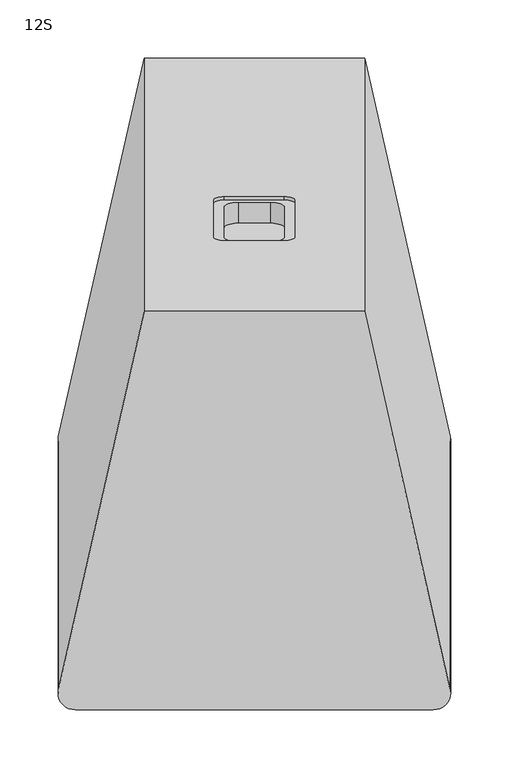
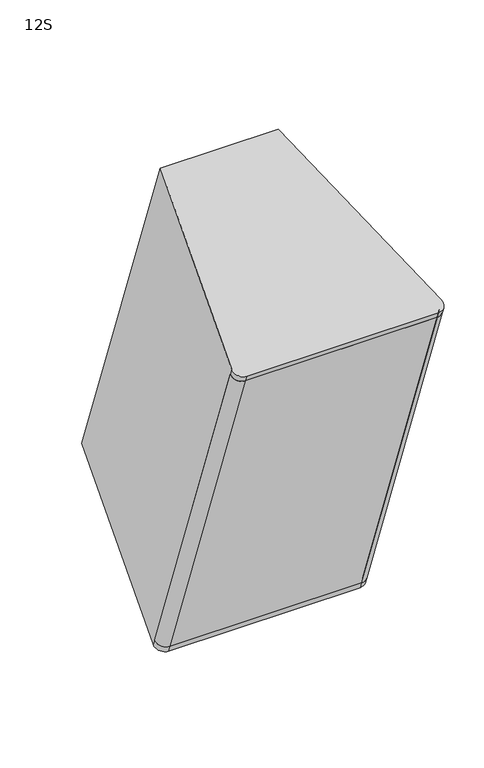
"""IFC4 building model written with IfcOpenShell, lengths in millimetres: proxy geometry, d&b xS-Series 12S Point Source : 12S."""

from ifc_helpers import new_model, si_unit, point, frame, frame_2d, origin, place, context, project, spatial, polyline, circle_curve, trimmed, segment, composite_curve, outline, extrude, source, transform, mapped, element, save
from ifc_brep_helpers import plane_surface, cylinder_surface, revolved_surface, advanced_brep


def proxy_12s_57577739(model_context):
    return source(origin(), model_context, "Body", "SolidModel", [
        extrude(outline(composite_curve([segment(trimmed(circle_curve(frame_2d((14.672214, -3.1186753)), 10.0), [point((5.1709581, 0.0))], [point((14.672214, -13.1186753))], True, "CARTESIAN"), True, "CONTINUOUS"), segment(polyline([(14.672214, -13.1186753), (322.6252994, -13.1186753)]), True, "CONTINUOUS"), segment(trimmed(circle_curve(frame_2d((322.6252994, -3.1186753)), 10.0), [point((322.6252994, -13.1186753))], [point((332.1265553, 0.0))], True, "CARTESIAN"), True, "CONTINUOUS"), segment(polyline([(332.1265553, 0.0), (337.2975134, 0.0)]), True, "CONTINUOUS"), segment(trimmed(circle_curve(frame_2d((322.6252994, -3.1186753)), 15.0), [point((337.2975134, 0.0))], [point((322.6252994, -18.1186753))], False, "CARTESIAN"), True, "CONTINUOUS"), segment(polyline([(322.6252994, -18.1186753), (14.672214, -18.1186753)]), True, "CONTINUOUS"), segment(trimmed(circle_curve(frame_2d((14.672214, -3.1186753)), 15.0), [point((14.672214, -18.1186753))], [point((0.0, 0.0))], False, "CARTESIAN"), True, "CONTINUOUS"), segment(polyline([(0.0, 0.0), (5.1709581, 0.0)]), True, "CONTINUOUS")], self_intersect=False)), frame((-168.6487567, -49.1257136, -345.6470514), z_axis=(0.0, -0.34202014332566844, 0.9396926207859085), x_axis=(1.0, 0.0, 0.0)), (0.0, 0.0, 1.0), 616.0),
        extrude(outline(composite_curve([segment(trimmed(circle_curve(frame_2d((322.6252994, -3.1186753)), 10.0), [point((332.1265553, 0.0))], [point((322.6252994, -13.1186753))], False, "CARTESIAN"), True, "CONTINUOUS"), segment(polyline([(322.6252994, -13.1186753), (14.672214, -13.1186753)]), True, "CONTINUOUS"), segment(trimmed(circle_curve(frame_2d((14.672214, -3.1186753)), 10.0), [point((14.672214, -13.1186753))], [point((5.1709581, 0.0))], False, "CARTESIAN"), True, "CONTINUOUS"), segment(polyline([(5.1709581, 0.0), (332.1265553, 0.0)]), True, "CONTINUOUS")], self_intersect=False)), frame((-168.6487567, -48.0996532, -348.4661293), z_axis=(0.0, -0.34202014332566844, 0.9396926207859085), x_axis=(1.0, 0.0, 0.0)), (0.0, 0.0, 1.0), 622.0),
        advanced_brep(
        [(-94.916855, 280.598329, -237.3432699), (94.916855, 280.598329, -237.3432699), (168.6487567, -45.363492, -355.9836702), (153.9765427, -62.3894776, -362.1806222), (-153.9765427, -62.3894776, -362.1806222), (-168.6487567, -45.363492, -355.9836702), (-94.916855, 62.3894776, 362.1806222), (-168.6487567, -263.5723435, 243.5402218), (-153.9765427, -280.598329, 237.3432699), (153.9765427, -280.598329, 237.3432699), (168.6487567, -263.5723435, 243.5402218), (94.916855, 62.3894776, 362.1806222), (-35.0, 123.8701867, 184.492349), (-26.0, 120.7920054, 192.9495826), (26.0, 120.7920054, 192.9495826), (35.0, 123.8701867, 184.492349), (35.0, 155.3360398, 98.0406279), (26.0, 158.4142211, 89.5833944), (-26.0, 158.4142211, 89.5833944), (-35.0, 155.3360398, 98.0406279), (-25.9695321, 152.0868485, 106.9677078), (-13.9695321, 156.1910902, 95.6913964), (13.9695321, 156.1910902, 95.6913964), (25.9695321, 152.0868485, 106.9677078), (25.9695321, 126.7773579, 176.5049618), (13.9695321, 122.6731162, 187.7812732), (-13.9695321, 122.6731162, 187.7812732), (-25.9695321, 126.7773579, 176.5049618), (-35.0, 126.6892645, 185.5184095), (-26.0, 123.6110832, 193.9756431), (26.0, 123.6110832, 193.9756431), (35.0, 126.6892645, 185.5184095), (35.0, 158.1551177, 99.0666884), (26.0, 161.233299, 90.6094548), (-26.0, 161.233299, 90.6094548), (-35.0, 158.1551177, 99.0666884), (-13.9695321, 138.3369304, 89.1930137), (-25.9695321, 134.2326887, 100.4693251), (-25.9695321, 108.9231981, 170.0065791), (-13.9695321, 104.8189564, 181.2828905), (13.9695321, 104.8189564, 181.2828905), (25.9695321, 108.9231981, 170.0065791), (25.9695321, 134.2326887, 100.4693251), (13.9695321, 138.3369304, 89.1930137), (168.6487567, -259.8101219, 233.203603), (153.9765427, -276.8361074, 227.006651), (-153.9765427, -276.8361074, 227.006651), (-168.6487567, -259.8101219, 233.203603), (-168.6487567, -49.1257136, -345.6470514), (-153.9765427, -66.1516991, -351.8440034), (153.9765427, -66.1516991, -351.8440034), (168.6487567, -49.1257136, -345.6470514)],
        [
            (0, 1),
            (1, 2),
            (2, 3, circle_curve(frame((153.9765427, -48.2940883, -357.05032), z_axis=(0.0, 0.34202014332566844, -0.9396926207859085), x_axis=(0.0, -0.9396926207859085, -0.34202014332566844)), 15.0)),
            (3, 4),
            (4, 5, circle_curve(frame((-153.9765427, -48.2940883, -357.05032), z_axis=(0.0, 0.34202014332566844, -0.9396926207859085), x_axis=(0.0, -0.9396926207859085, -0.34202014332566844)), 15.0)),
            (5, 0),
            (6, 7),
            (7, 8, circle_curve(frame((-153.9765427, -266.5029397, 242.473572), z_axis=(0.0, -0.34202014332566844, 0.9396926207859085), x_axis=(0.0, -0.9396926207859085, -0.34202014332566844)), 15.0)),
            (8, 9),
            (9, 10, circle_curve(frame((153.9765427, -266.5029397, 242.473572), z_axis=(0.0, -0.34202014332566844, 0.9396926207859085), x_axis=(0.0, -0.9396926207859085, -0.34202014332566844)), 15.0)),
            (10, 11),
            (11, 6),
            (12, 13, circle_curve(frame((-26.0, 123.8701867, 184.492349), z_axis=(0.0, 0.9396926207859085, 0.34202014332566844), x_axis=(-1.0, 0.0, 0.0)), 9.0)),
            (13, 14),
            (14, 15, circle_curve(frame((26.0, 123.8701867, 184.492349), z_axis=(0.0, 0.9396926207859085, 0.34202014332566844), x_axis=(-1.0, 0.0, 0.0)), 9.0)),
            (15, 16),
            (16, 17, circle_curve(frame((26.0, 155.3360398, 98.0406279), z_axis=(0.0, 0.9396926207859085, 0.34202014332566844), x_axis=(-1.0, 0.0, 0.0)), 9.0)),
            (17, 18),
            (18, 19, circle_curve(frame((-26.0, 155.3360398, 98.0406279), z_axis=(0.0, 0.9396926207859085, 0.34202014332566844), x_axis=(-1.0, 0.0, 0.0)), 9.0)),
            (19, 12),
            (20, 21, circle_curve(frame((-13.9695321, 152.0868485, 106.9677078), z_axis=(0.0, -0.9396926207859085, -0.34202014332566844), x_axis=(-1.0, 0.0, 0.0)), 12.0)),
            (21, 22),
            (22, 23, circle_curve(frame((13.9695321, 152.0868485, 106.9677078), z_axis=(0.0, -0.9396926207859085, -0.34202014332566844), x_axis=(-1.0, 0.0, 0.0)), 12.0)),
            (23, 24),
            (24, 25, circle_curve(frame((13.9695321, 126.7773579, 176.5049618), z_axis=(0.0, -0.9396926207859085, -0.34202014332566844), x_axis=(-1.0, 0.0, 0.0)), 12.0)),
            (25, 26),
            (26, 27, circle_curve(frame((-13.9695321, 126.7773579, 176.5049618), z_axis=(0.0, -0.9396926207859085, -0.34202014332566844), x_axis=(-1.0, 0.0, 0.0)), 12.0)),
            (27, 20),
            (12, 28),
            (28, 29, circle_curve(frame((-26.0, 126.6892645, 185.5184095), z_axis=(0.0, 0.9396926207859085, 0.34202014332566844), x_axis=(-1.0, 0.0, 0.0)), 9.0)),
            (29, 13),
            (29, 30),
            (30, 14),
            (30, 31, circle_curve(frame((26.0, 126.6892645, 185.5184095), z_axis=(0.0, 0.9396926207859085, 0.34202014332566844), x_axis=(-1.0, 0.0, 0.0)), 9.0)),
            (31, 15),
            (31, 32),
            (32, 16),
            (32, 33, circle_curve(frame((26.0, 158.1551177, 99.0666884), z_axis=(0.0, 0.9396926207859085, 0.34202014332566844), x_axis=(-1.0, 0.0, 0.0)), 9.0)),
            (33, 17),
            (33, 34),
            (34, 18),
            (34, 35, circle_curve(frame((-26.0, 158.1551177, 99.0666884), z_axis=(0.0, 0.9396926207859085, 0.34202014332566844), x_axis=(-1.0, 0.0, 0.0)), 9.0)),
            (35, 19),
            (35, 28),
            (36, 37, circle_curve(frame((-13.9695321, 134.2326887, 100.4693251), z_axis=(0.0, 0.9396926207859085, 0.34202014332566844), x_axis=(-1.0, 0.0, 0.0)), 12.0)),
            (37, 38),
            (38, 39, circle_curve(frame((-13.9695321, 108.9231981, 170.0065791), z_axis=(0.0, 0.9396926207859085, 0.34202014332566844), x_axis=(-1.0, 0.0, 0.0)), 12.0)),
            (39, 40),
            (40, 41, circle_curve(frame((13.9695321, 108.9231981, 170.0065791), z_axis=(0.0, 0.9396926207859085, 0.34202014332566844), x_axis=(-1.0, 0.0, 0.0)), 12.0)),
            (41, 42),
            (42, 43, circle_curve(frame((13.9695321, 134.2326887, 100.4693251), z_axis=(0.0, 0.9396926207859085, 0.34202014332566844), x_axis=(-1.0, 0.0, 0.0)), 12.0)),
            (43, 36),
            (44, 45, circle_curve(frame((153.9765427, -262.7407181, 232.1369532), z_axis=(0.0, 0.34202014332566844, -0.9396926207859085), x_axis=(0.0, -0.9396926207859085, -0.34202014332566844)), 15.0)),
            (45, 46),
            (46, 47, circle_curve(frame((-153.9765427, -262.7407181, 232.1369532), z_axis=(0.0, 0.34202014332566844, -0.9396926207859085), x_axis=(0.0, -0.9396926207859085, -0.34202014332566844)), 15.0)),
            (47, 44),
            (48, 49, circle_curve(frame((-153.9765427, -52.0563098, -346.7137012), z_axis=(0.0, -0.34202014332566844, 0.9396926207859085), x_axis=(0.0, -0.9396926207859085, -0.34202014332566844)), 15.0)),
            (49, 50),
            (50, 51, circle_curve(frame((153.9765427, -52.0563098, -346.7137012), z_axis=(0.0, -0.34202014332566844, 0.9396926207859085), x_axis=(0.0, -0.9396926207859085, -0.34202014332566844)), 15.0)),
            (51, 48),
            (36, 21),
            (20, 37),
            (27, 38),
            (26, 39),
            (25, 40),
            (24, 41),
            (23, 42),
            (22, 43),
            (0, 6),
            (11, 1),
            (10, 44),
            (44, 51),
            (51, 2),
            (47, 48),
            (5, 48),
            (47, 7),
            (46, 8),
            (45, 9),
            (4, 49),
            (3, 50),
        ],
        [
            plane_surface(frame((-94.916855, 280.598329, -237.3432699), z_axis=(0.0, 0.34202014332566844, -0.9396926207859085), x_axis=(1.0, 0.0, 0.0))),
            plane_surface(frame((-94.916855, 62.3894776, 362.1806222), z_axis=(0.0, -0.34202014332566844, 0.9396926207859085), x_axis=(-1.0, 0.0, 0.0))),
            plane_surface(frame((-35.0, 123.8701867, 184.492349), z_axis=(0.0, 0.9396926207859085, 0.34202014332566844), x_axis=(0.0, 0.34202014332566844, -0.9396926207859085))),
            revolved_surface(polyline([(-35.0, 126.68926452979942, 185.51840941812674), (-35.0, 123.87018669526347, 184.49234899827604)]), (-26.0, 123.8701867, 184.492349), (0.0, 0.9396926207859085, 0.34202014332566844)),
            plane_surface(frame((-26.0, 123.6110832, 193.9756431), z_axis=(0.0, 0.34202014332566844, -0.9396926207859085), x_axis=(0.0, -0.9396926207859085, -0.34202014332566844))),
            revolved_surface(polyline([(17.0, 126.68926452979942, 185.51840941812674), (17.0, 123.87018669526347, 184.49234899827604)]), (26.0, 123.8701867, 184.492349), (0.0, 0.9396926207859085, 0.34202014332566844)),
            plane_surface(frame((35.0, 126.6892645, 185.5184095), z_axis=(-1.0, 0.0, 0.0), x_axis=(0.0, -0.9396926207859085, -0.34202014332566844))),
            revolved_surface(polyline([(17.0, 158.15511772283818, 99.06668835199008), (17.0, 155.3360398, 98.0406279)]), (26.0, 155.3360398, 98.0406279), (0.0, 0.9396926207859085, 0.34202014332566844)),
            plane_surface(frame((26.0, 161.233299, 90.6094548), z_axis=(0.0, -0.34202014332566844, 0.9396926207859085), x_axis=(0.0, -0.9396926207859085, -0.34202014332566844))),
            revolved_surface(polyline([(-35.0, 158.15511772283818, 99.06668835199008), (-35.0, 155.3360398, 98.0406279)]), (-26.0, 155.3360398, 98.0406279), (0.0, 0.9396926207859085, 0.34202014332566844)),
            plane_surface(frame((-35.0, 158.1551177, 99.0666884), z_axis=(1.0, 0.0, 0.0), x_axis=(0.0, -0.9396926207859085, -0.34202014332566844))),
            plane_surface(frame((-25.9695321, 134.2326887, 100.4693251), z_axis=(0.0, 0.9396926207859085, 0.34202014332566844), x_axis=(0.0, 0.34202014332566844, -0.9396926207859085))),
            plane_surface(frame((-168.6487567, -259.8101219, 233.203603), z_axis=(0.0, 0.34202014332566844, -0.9396926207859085), x_axis=(1.0, 0.0, 0.0))),
            plane_surface(frame((153.9765427, -61.453236, -350.1339026), z_axis=(0.0, -0.34202014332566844, 0.9396926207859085), x_axis=(1.0, 0.0, 0.0))),
            revolved_surface(polyline([(-25.969532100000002, 152.0868484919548, 106.967707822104), (-25.969532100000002, 134.23268869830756, 100.46932509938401)]), (-13.9695321, 134.2326887, 100.4693251), (0.0, 0.9396926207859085, 0.34202014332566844)),
            plane_surface(frame((-25.9695321, 152.0868485, 106.9677078), z_axis=(1.0, 0.0, 0.0), x_axis=(0.0, -0.9396926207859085, -0.34202014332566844))),
            revolved_surface(polyline([(-25.969532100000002, 126.77735789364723, 176.50496182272), (-25.969532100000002, 108.9231981, 170.0065791)]), (-13.9695321, 108.9231981, 170.0065791), (0.0, 0.9396926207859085, 0.34202014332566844)),
            plane_surface(frame((-13.9695321, 122.6731162, 187.7812732), z_axis=(0.0, 0.34202014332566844, -0.9396926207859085), x_axis=(0.0, -0.9396926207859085, -0.34202014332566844))),
            revolved_surface(polyline([(1.9695321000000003, 126.77735789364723, 176.50496182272), (1.9695321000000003, 108.9231981, 170.0065791)]), (13.9695321, 108.9231981, 170.0065791), (0.0, 0.9396926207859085, 0.34202014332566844)),
            plane_surface(frame((25.9695321, 126.7773579, 176.5049618), z_axis=(-1.0, 0.0, 0.0), x_axis=(0.0, -0.9396926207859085, -0.34202014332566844))),
            revolved_surface(polyline([(1.9695321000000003, 152.0868484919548, 106.967707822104), (1.9695321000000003, 134.23268869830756, 100.46932509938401)]), (13.9695321, 134.2326887, 100.4693251), (0.0, 0.9396926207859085, 0.34202014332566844)),
            plane_surface(frame((13.9695321, 156.1910902, 95.6913964), z_axis=(0.0, -0.34202014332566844, 0.9396926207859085), x_axis=(0.0, -0.9396926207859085, -0.34202014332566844))),
            plane_surface(frame((-94.916855, 280.598329, -237.3432699), z_axis=(0.0, 0.9396926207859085, 0.34202014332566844), x_axis=(0.0, -0.34202014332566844, 0.9396926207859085))),
            plane_surface(frame((94.916855, 280.598329, -237.3432699), z_axis=(0.9781476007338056, 0.19537308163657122, 0.07110998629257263), x_axis=(0.0, -0.34202014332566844, 0.9396926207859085))),
            plane_surface(frame((168.6487567, -45.363492, -355.9836702), z_axis=(0.0, -0.9396926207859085, -0.34202014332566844), x_axis=(0.0, -0.34202014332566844, 0.9396926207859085))),
            plane_surface(frame((-168.6487567, -45.363492, -355.9836702), z_axis=(-0.9781476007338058, 0.1953730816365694, 0.07110998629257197), x_axis=(0.0, -0.34202014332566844, 0.9396926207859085))),
            cylinder_surface(frame((-153.9765427, -262.7407181, 232.1369532), z_axis=(0.0, -0.34202014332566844, 0.9396926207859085), x_axis=(0.0, -0.9396926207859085, -0.34202014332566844)), 15.0),
            plane_surface(frame((-153.9765427, -280.598329, 237.3432699), z_axis=(0.0, -0.9396926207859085, -0.34202014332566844), x_axis=(0.0, 0.34202014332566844, -0.9396926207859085))),
            cylinder_surface(frame((153.9765427, -262.7407181, 232.1369532), z_axis=(0.0, -0.34202014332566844, 0.9396926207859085), x_axis=(0.0, -0.9396926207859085, -0.34202014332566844)), 15.0),
            cylinder_surface(frame((-153.9765427, -48.2940883, -357.05032), z_axis=(0.0, -0.34202014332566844, 0.9396926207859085), x_axis=(0.0, -0.9396926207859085, -0.34202014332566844)), 15.0),
            plane_surface(frame((-153.9765427, -66.1516991, -351.8440034), z_axis=(0.0, -0.9396926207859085, -0.34202014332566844), x_axis=(0.0, 0.34202014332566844, -0.9396926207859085))),
            cylinder_surface(frame((153.9765427, -48.2940883, -357.05032), z_axis=(0.0, -0.34202014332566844, 0.9396926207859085), x_axis=(0.0, -0.9396926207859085, -0.34202014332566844)), 15.0),
        ],
        [
            (0, [[1, 2, 3, 4, 5, 6]]),
            (1, [[7, 8, 9, 10, 11, 12]]),
            (2, [[13, 14, 15, 16, 17, 18, 19, 20], [21, 22, 23, 24, 25, 26, 27, 28]]),
            (3, [[-13, 29, 30, 31]]),
            (4, [[-14, -31, 32, 33]]),
            (5, [[-15, -33, 34, 35]]),
            (6, [[-16, -35, 36, 37]]),
            (7, [[-17, -37, 38, 39]]),
            (8, [[-18, -39, 40, 41]]),
            (9, [[-19, -41, 42, 43]]),
            (10, [[-20, -43, 44, -29]]),
            (11, [[45, 46, 47, 48, 49, 50, 51, 52]]),
            (12, [[53, 54, 55, 56]]),
            (13, [[57, 58, 59, 60]]),
            (14, [[-45, 61, -21, 62]]),
            (15, [[-46, -62, -28, 63]]),
            (16, [[-47, -63, -27, 64]]),
            (17, [[-48, -64, -26, 65]]),
            (18, [[-49, -65, -25, 66]]),
            (19, [[-50, -66, -24, 67]]),
            (20, [[-51, -67, -23, 68]]),
            (21, [[-52, -68, -22, -61]]),
            (22, [[-1, 69, -12, 70], [-30, -44, -42, -40, -38, -36, -34, -32]]),
            (23, [[-2, -70, -11, 71, 72, 73]]),
            (24, [[-56, 74, -60, -72]]),
            (25, [[-6, 75, -74, 76, -7, -69]]),
            (26, [[-8, -76, -55, 77]]),
            (27, [[-9, -77, -54, 78]]),
            (28, [[-10, -78, -53, -71]]),
            (29, [[-57, -75, -5, 79]]),
            (30, [[-58, -79, -4, 80]]),
            (31, [[-59, -80, -3, -73]]),
        ],
    ),
    ])


if __name__ == "__main__":
    model = new_model("IFC4")
    model_context = context("Model", 3, world=origin())
    ifc_project = project(units=[si_unit("LENGTHUNIT", "METRE", prefix="MILLI")], contexts=[model_context])
    site = spatial("IfcSite", under=ifc_project)
    building = spatial("IfcBuilding", under=site)
    placement = place(None, origin())
    proxy_12s_shape = proxy_12s_57577739(model_context)
    element("IfcBuildingElementProxy", 1, Name="d&b xS-Series 12S Point Source : 12S", ObjectType="d&b xS-Series 12S Point Source : 12S", at=placement, inside=building, context=model_context, shape_type="MappedRepresentation", body=[
        mapped(proxy_12s_shape, transform((0.0, 0.0, 0.0), x_axis=(1.0, 0.0, 0.0), y_axis=(0.0, 1.0, 0.0), z_axis=(0.0, 0.0, 1.0))),
    ])
    save(model, "model.ifc")
